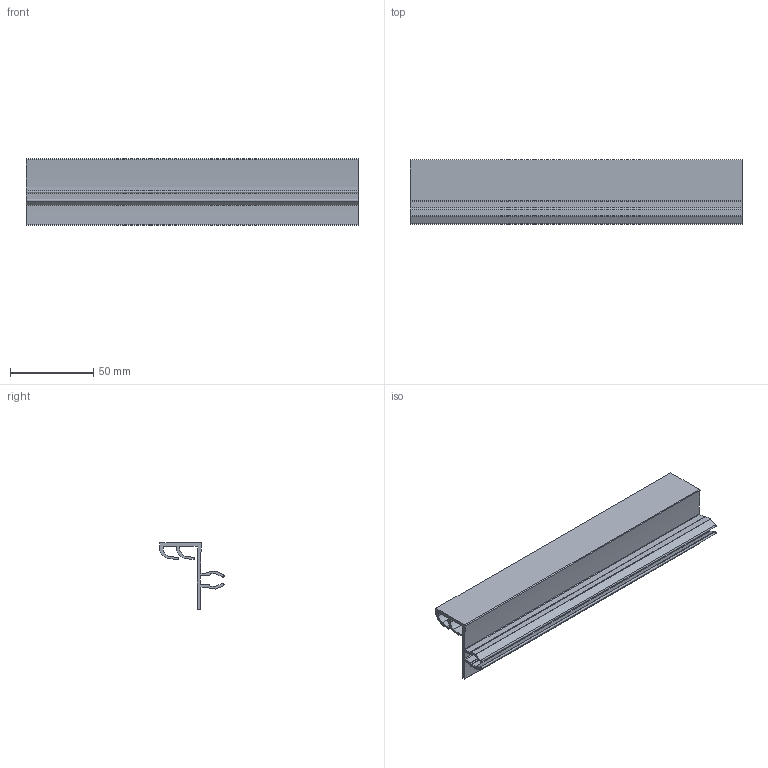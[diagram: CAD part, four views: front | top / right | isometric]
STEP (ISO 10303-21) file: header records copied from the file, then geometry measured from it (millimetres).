
FILE_DESCRIPTION (( 'STEP AP214' ), '1' );
FILE_NAME ('1.6041 Kehystiiviste.STEP', '2024-03-08T13:25:56', ( '' ), ( '' ), 'SwSTEP 2.0', 'SolidWorks 2024', '' );
FILE_SCHEMA (( 'AUTOMOTIVE_DESIGN' ));
Length unit declared in the file: millimetre
Products named in the file (1): 1.6041 Kehystiiviste
Bounding box: 200 x 38.66 x 40 mm (x, y, z)
Volume: 43969.1 mm3; surface area: 49132.4 mm2
Topology: 1 solids, 1 shells, 66 faces, 192 edges, 128 vertices
Faces by surface type: cylinder 36, plane 30
Entity records: 2957 total; most frequent: DIRECTION 398, CARTESIAN_POINT 387, ORIENTED_EDGE 384, EDGE_CURVE 192, AXIS2_PLACEMENT_3D 139, VERTEX_POINT 128, LINE 120, VECTOR 120
